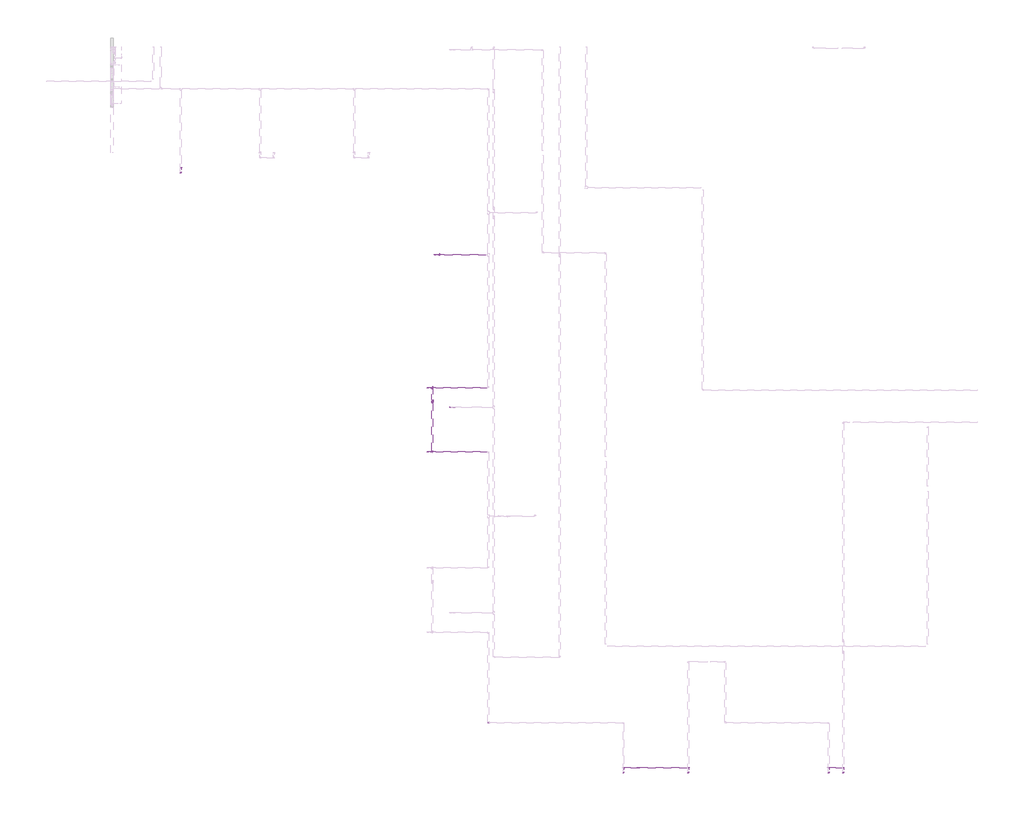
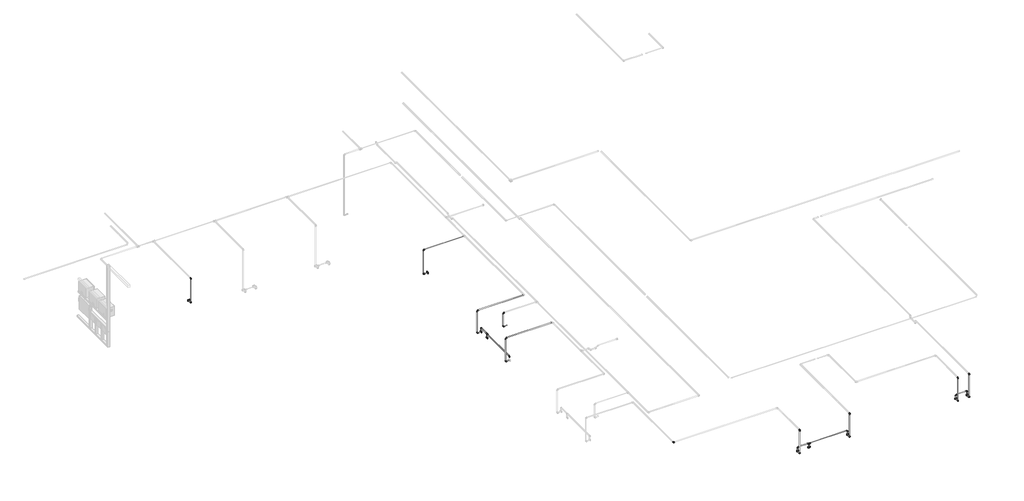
# One storey, part 5 of 40: 33 cable carrier segments, 27 cable carrier fittings, 9 electric appliances.
"""IFC4 building model written with IfcOpenShell, lengths in millimetres."""

from ifc_helpers import new_model, si_unit, point, frame, frame_2d, origin, place, context, project, spatial, circle_curve, trimmed, segment, composite_curve, outline, extrude, transform, mapped, element, save
from components import cable_carrier_fitting_69f1a801, cable_carrier_fitting_8fd13dfc, electric_appliance_5961a143

model = new_model("IFC4")

# Units and contexts
model_context = context("Model", 3, world=origin())
ifc_project = project(units=[si_unit("LENGTHUNIT", "METRE", prefix="MILLI")], contexts=[model_context])

# Site, building, storey
site = spatial("IfcSite", under=ifc_project)
building = spatial("IfcBuilding", under=site)
storey = spatial("IfcBuildingStorey", under=building, Name="1 этаж", Elevation=0.0)

# Cable carrier fittings
placement = place(None, origin())
cable_carrier_fitting_shape = cable_carrier_fitting_69f1a801(model_context)
element("IfcCableCarrierFitting", 1, ObjectType="ADSK_Поворот_Минимальный размер : Неспецифицируемый", at=placement, inside=storey, context=model_context, shape_type="MappedRepresentation", body=[
    mapped(cable_carrier_fitting_shape, transform((-8602.3240021, -12259.3629895, 2650.0), x_axis=(0.0, 0.0, 1.0), y_axis=(1.0, 0.0, 0.0), z_axis=(0.0, 1.0, 0.0))),
])
element("IfcCableCarrierFitting", 2, ObjectType="ADSK_Поворот_Минимальный размер : Неспецифицируемый", at=placement, inside=storey, context=model_context, shape_type="MappedRepresentation", body=[
    mapped(cable_carrier_fitting_shape, transform((-8307.3240021, -12259.3629895, 2650.0), x_axis=(0.0, 0.0, 1.0), y_axis=(-1.0, 0.0, 0.0), z_axis=(0.0, -1.0, 0.0))),
])
element("IfcCableCarrierFitting", 3, ObjectType="ADSK_Поворот_Минимальный размер : Неспецифицируемый", at=placement, inside=storey, context=model_context, shape_type="MappedRepresentation", body=[
    mapped(cable_carrier_fitting_shape, transform((-8307.3240021, -12359.5627951, 2535.0911237), x_axis=(0.0, -1.0, 0.0), y_axis=(0.0, 0.0, 1.0), z_axis=(-1.0, 0.0, 0.0))),
])
element("IfcCableCarrierFitting", 4, ObjectType="ADSK_Поворот_Минимальный размер : Неспецифицируемый", at=placement, inside=storey, context=model_context, shape_type="MappedRepresentation", body=[
    mapped(cable_carrier_fitting_shape, transform((-8307.3240021, -12359.5627951, 3187.0), x_axis=(0.0, 0.0, 1.0), y_axis=(0.0, 1.0, 0.0), z_axis=(-1.0, 0.0, 0.0))),
])
element("IfcCableCarrierFitting", 5, ObjectType="ADSK_Поворот_Минимальный размер : Неспецифицируемый", at=placement, inside=storey, context=model_context, shape_type="MappedRepresentation", body=[
    mapped(cable_carrier_fitting_shape, transform((-8602.3240021, -12359.5627951, 2535.0527319), x_axis=(0.0, -1.0, 0.0), y_axis=(0.0, 0.0, 1.0), z_axis=(-1.0, 0.0, 0.0))),
])
element("IfcCableCarrierFitting", 6, ObjectType="ADSK_Поворот_Минимальный размер : Неспецифицируемый", at=placement, inside=storey, context=model_context, shape_type="MappedRepresentation", body=[
    mapped(cable_carrier_fitting_shape, transform((-8602.3240021, -12359.5627951, 3187.0), x_axis=(0.0, 0.0, 1.0), y_axis=(0.0, 1.0, 0.0), z_axis=(-1.0, 0.0, 0.0))),
])
element("IfcCableCarrierFitting", 7, ObjectType="ADSK_Поворот_Минимальный размер : Неспецифицируемый", at=placement, inside=storey, context=model_context, shape_type="MappedRepresentation", body=[
    mapped(cable_carrier_fitting_shape, transform((-12767.3240021, -12259.3629895, 2650.0), x_axis=(0.0, 0.0, 1.0), y_axis=(1.0, 0.0, 0.0), z_axis=(0.0, 1.0, 0.0))),
])
element("IfcCableCarrierFitting", 8, ObjectType="ADSK_Поворот_Минимальный размер : Неспецифицируемый", at=placement, inside=storey, context=model_context, shape_type="MappedRepresentation", body=[
    mapped(cable_carrier_fitting_shape, transform((-11452.3240021, -12259.3629895, 2650.0), x_axis=(0.0, 0.0, 1.0), y_axis=(-1.0, 0.0, 0.0), z_axis=(0.0, -1.0, 0.0))),
])
element("IfcCableCarrierFitting", 9, ObjectType="ADSK_Поворот_Минимальный размер : Неспецифицируемый", at=placement, inside=storey, context=model_context, shape_type="MappedRepresentation", body=[
    mapped(cable_carrier_fitting_shape, transform((-11452.3240021, -12359.5627951, 2534.0911237), x_axis=(0.0, -1.0, 0.0), y_axis=(0.0, 0.0, 1.0), z_axis=(-1.0, 0.0, 0.0))),
])
element("IfcCableCarrierFitting", 10, ObjectType="ADSK_Поворот_Минимальный размер : Неспецифицируемый", at=placement, inside=storey, context=model_context, shape_type="MappedRepresentation", body=[
    mapped(cable_carrier_fitting_shape, transform((-12767.3240021, -12359.5627951, 2534.0911237), x_axis=(0.0, -1.0, 0.0), y_axis=(0.0, 0.0, 1.0), z_axis=(-1.0, 0.0, 0.0))),
])
element("IfcCableCarrierFitting", 11, ObjectType="ADSK_Поворот_Минимальный размер : Неспецифицируемый", at=placement, inside=storey, context=model_context, shape_type="MappedRepresentation", body=[
    mapped(cable_carrier_fitting_shape, transform((-12767.3240021, -12359.5627951, 3187.0), x_axis=(0.0, 0.0, 1.0), y_axis=(0.0, 1.0, 0.0), z_axis=(-1.0, 0.0, 0.0))),
])
element("IfcCableCarrierFitting", 12, ObjectType="ADSK_Поворот_Минимальный размер : Неспецифицируемый", at=placement, inside=storey, context=model_context, shape_type="MappedRepresentation", body=[
    mapped(cable_carrier_fitting_shape, transform((-15509.3240021, -11350.3629895, 3187.0), x_axis=(0.0, -1.0, 0.0), y_axis=(1.0, 0.0, 0.0), z_axis=(0.0, 0.0, 1.0))),
])
element("IfcCableCarrierFitting", 13, ObjectType="ADSK_Поворот_Минимальный размер : Неспецифицируемый", at=placement, inside=storey, context=model_context, shape_type="MappedRepresentation", body=[
    mapped(cable_carrier_fitting_shape, transform((-16646.3240021, -4545.3629895, 2650.0), x_axis=(0.0, 0.0, 1.0), y_axis=(0.0, -1.0, 0.0), z_axis=(1.0, 0.0, 0.0))),
])
element("IfcCableCarrierFitting", 14, ObjectType="ADSK_Поворот_Минимальный размер : Неспецифицируемый", at=placement, inside=storey, context=model_context, shape_type="MappedRepresentation", body=[
    mapped(cable_carrier_fitting_shape, transform((-16646.3240021, -5845.3629895, 2650.0), x_axis=(0.0, 0.0, 1.0), y_axis=(0.0, 1.0, 0.0), z_axis=(-1.0, 0.0, 0.0))),
])
element("IfcCableCarrierFitting", 15, ObjectType="ADSK_Поворот_Минимальный размер : Неспецифицируемый", at=placement, inside=storey, context=model_context, shape_type="MappedRepresentation", body=[
    mapped(cable_carrier_fitting_shape, transform((-16746.5238077, -5845.3629895, 2534.0911237), x_axis=(-1.0, 0.0, 0.0), y_axis=(0.0, 0.0, 1.0), z_axis=(0.0, 1.0, 0.0))),
])
element("IfcCableCarrierFitting", 16, ObjectType="ADSK_Поворот_Минимальный размер : Неспецифицируемый", at=placement, inside=storey, context=model_context, shape_type="MappedRepresentation", body=[
    mapped(cable_carrier_fitting_shape, transform((-16746.5238077, -4545.3629895, 2534.0911237), x_axis=(-1.0, 0.0, 0.0), y_axis=(0.0, 0.0, 1.0), z_axis=(0.0, 1.0, 0.0))),
])
element("IfcCableCarrierFitting", 17, ObjectType="ADSK_Поворот_Минимальный размер : Неспецифицируемый", at=placement, inside=storey, context=model_context, shape_type="MappedRepresentation", body=[
    mapped(cable_carrier_fitting_shape, transform((-16746.5238077, -4545.3629895, 3166.0), x_axis=(0.0, 0.0, 1.0), y_axis=(1.0, 0.0, 0.0), z_axis=(0.0, 1.0, 0.0))),
])
element("IfcCableCarrierFitting", 18, ObjectType="ADSK_Поворот_Минимальный размер : Неспецифицируемый", at=placement, inside=storey, context=model_context, shape_type="MappedRepresentation", body=[
    mapped(cable_carrier_fitting_shape, transform((-16596.5238077, -1842.8629895, 2488.0911237), x_axis=(-1.0, 0.0, 0.0), y_axis=(0.0, 0.0, 1.0), z_axis=(0.0, 1.0, 0.0))),
])
element("IfcCableCarrierFitting", 19, ObjectType="ADSK_Поворот_Минимальный размер : Неспецифицируемый", at=placement, inside=storey, context=model_context, shape_type="MappedRepresentation", body=[
    mapped(cable_carrier_fitting_shape, transform((-16289.5238077, -4942.8629895, 2797.4861504), x_axis=(-1.0, 0.0, 0.0), y_axis=(0.0, 0.0, 1.0), z_axis=(0.0, 1.0, 0.0))),
])
element("IfcCableCarrierFitting", 20, ObjectType="ADSK_Поворот_Минимальный размер : Неспецифицируемый", at=placement, inside=storey, context=model_context, shape_type="MappedRepresentation", body=[
    mapped(cable_carrier_fitting_shape, transform((-16289.5238077, -4942.8629895, 3180.0), x_axis=(0.0, 0.0, 1.0), y_axis=(1.0, 0.0, 0.0), z_axis=(0.0, 1.0, 0.0))),
])
element("IfcCableCarrierFitting", 21, ObjectType="ADSK_Поворот_Минимальный размер : Неспецифицируемый", at=placement, inside=storey, context=model_context, shape_type="MappedRepresentation", body=[
    mapped(cable_carrier_fitting_shape, transform((-11452.3240021, -12359.5627951, 3187.0), x_axis=(0.0, 0.0, 1.0), y_axis=(0.0, 1.0, 0.0), z_axis=(-1.0, 0.0, 0.0))),
])
element("IfcCableCarrierFitting", 22, ObjectType="ADSK_Поворот_Минимальный размер : Неспецифицируемый", at=placement, inside=storey, context=model_context, shape_type="MappedRepresentation", body=[
    mapped(cable_carrier_fitting_shape, transform((-21754.8240021, -179.5627951, 2488.0911237), x_axis=(0.0, -1.0, 0.0), y_axis=(0.0, 0.0, 1.0), z_axis=(-1.0, 0.0, 0.0))),
])
element("IfcCableCarrierFitting", 23, ObjectType="ADSK_Поворот_Минимальный размер : Неспецифицируемый", at=placement, inside=storey, context=model_context, shape_type="MappedRepresentation", body=[
    mapped(cable_carrier_fitting_shape, transform((-21754.8240021, -179.5627951, 3166.0), x_axis=(0.0, 0.0, 1.0), y_axis=(0.0, 1.0, 0.0), z_axis=(-1.0, 0.0, 0.0))),
])
element("IfcCableCarrierFitting", 24, ObjectType="ADSK_Поворот_Минимальный размер : Неспецифицируемый", at=placement, inside=storey, context=model_context, shape_type="MappedRepresentation", body=[
    mapped(cable_carrier_fitting_shape, transform((-16746.5238077, -5845.3629895, 3187.0), x_axis=(0.0, 0.0, 1.0), y_axis=(1.0, 0.0, 0.0), z_axis=(0.0, 1.0, 0.0))),
])
element("IfcCableCarrierFitting", 25, ObjectType="ADSK_Поворот_Минимальный размер : Неспецифицируемый", at=placement, inside=storey, context=model_context, shape_type="MappedRepresentation", body=[
    mapped(cable_carrier_fitting_shape, transform((-16596.5238077, -1842.8629895, 3166.0), x_axis=(0.0, 0.0, 1.0), y_axis=(1.0, 0.0, 0.0), z_axis=(0.0, 1.0, 0.0))),
])
cable_carrier_fitting_2_shape = cable_carrier_fitting_8fd13dfc(model_context)
element("IfcCableCarrierFitting", 26, ObjectType="ADSK_Тройник : ПВХ", at=placement, inside=storey, context=model_context, shape_type="MappedRepresentation", body=[
    mapped(cable_carrier_fitting_2_shape, transform((-12467.3240021, -12259.3629895, 2650.0), x_axis=(-1.0, 0.0, 0.0), y_axis=(0.0, 0.0, 1.0), z_axis=(0.0, 1.0, 0.0))),
])
element("IfcCableCarrierFitting", 27, ObjectType="ADSK_Тройник : ПВХ", at=placement, inside=storey, context=model_context, shape_type="MappedRepresentation", body=[
    mapped(cable_carrier_fitting_2_shape, transform((-16646.3240021, -4821.3629895, 2650.0), x_axis=(0.0, 1.0, 0.0), y_axis=(0.0, 0.0, 1.0), z_axis=(1.0, 0.0, 0.0))),
])

# Cable carrier segments
element("IfcCableCarrierSegment", 28, ObjectType="Гофрированная труба", at=placement, inside=storey, context=model_context, shape_type="SweptSolid", body=[
    extrude(outline(composite_curve([segment(trimmed(circle_curve(frame_2d((-12259.3629895, 2650.0)), 10.0), [point((-12269.3629895, 2650.0))], [point((-12259.3629895, 2660.0))], False, "CARTESIAN"), True, "CONTINUOUS"), segment(trimmed(circle_curve(frame_2d((-12259.3629895, 2650.0)), 10.0), [point((-12259.3629895, 2660.0))], [point((-12249.3629895, 2650.0))], False, "CARTESIAN"), True, "CONTINUOUS"), segment(trimmed(circle_curve(frame_2d((-12259.3629895, 2650.0)), 10.0), [point((-12249.3629895, 2650.0))], [point((-12259.3629895, 2640.0))], False, "CARTESIAN"), True, "CONTINUOUS"), segment(trimmed(circle_curve(frame_2d((-12259.3629895, 2650.0)), 10.0), [point((-12259.3629895, 2640.0))], [point((-12269.3629895, 2650.0))], False, "CARTESIAN"), True, "CONTINUOUS")], self_intersect=False)), frame((-8581.3240021, 0.0, 0.0), z_axis=(1.0, 0.0, 0.0), x_axis=(0.0, 1.0, 0.0)), (0.0, 0.0, 1.0), 253.0),
])
element("IfcCableCarrierSegment", 29, ObjectType="Гофрированная труба", at=placement, inside=storey, context=model_context, shape_type="SweptSolid", body=[
    extrude(outline(composite_curve([segment(trimmed(circle_curve(frame_2d((-8307.3240021, -12259.3629895)), 10.0), [point((-8317.3240021, -12259.3629895))], [point((-8307.3240021, -12249.3629895))], False, "CARTESIAN"), True, "CONTINUOUS"), segment(trimmed(circle_curve(frame_2d((-8307.3240021, -12259.3629895)), 10.0), [point((-8307.3240021, -12249.3629895))], [point((-8297.3240021, -12259.3629895))], False, "CARTESIAN"), True, "CONTINUOUS"), segment(trimmed(circle_curve(frame_2d((-8307.3240021, -12259.3629895)), 10.0), [point((-8297.3240021, -12259.3629895))], [point((-8307.3240021, -12269.3629895))], False, "CARTESIAN"), True, "CONTINUOUS"), segment(trimmed(circle_curve(frame_2d((-8307.3240021, -12259.3629895)), 10.0), [point((-8307.3240021, -12269.3629895))], [point((-8317.3240021, -12259.3629895))], False, "CARTESIAN"), True, "CONTINUOUS")], self_intersect=False)), frame((0.0, 0.0, 2564.1207114), z_axis=(0.0, 0.0, 1.0), x_axis=(1.0, 0.0, 0.0)), (0.0, 0.0, 1.0), 64.8792886),
])
element("IfcCableCarrierSegment", 30, ObjectType="Гофрированная труба", at=placement, inside=storey, context=model_context, shape_type="SweptSolid", body=[
    extrude(outline(composite_curve([segment(trimmed(circle_curve(frame_2d((-8602.3240021, -12259.3629895)), 10.0), [point((-8612.3240021, -12259.3629895))], [point((-8602.3240021, -12249.3629895))], False, "CARTESIAN"), True, "CONTINUOUS"), segment(trimmed(circle_curve(frame_2d((-8602.3240021, -12259.3629895)), 10.0), [point((-8602.3240021, -12249.3629895))], [point((-8592.3240021, -12259.3629895))], False, "CARTESIAN"), True, "CONTINUOUS"), segment(trimmed(circle_curve(frame_2d((-8602.3240021, -12259.3629895)), 10.0), [point((-8592.3240021, -12259.3629895))], [point((-8602.3240021, -12269.3629895))], False, "CARTESIAN"), True, "CONTINUOUS"), segment(trimmed(circle_curve(frame_2d((-8602.3240021, -12259.3629895)), 10.0), [point((-8602.3240021, -12269.3629895))], [point((-8612.3240021, -12259.3629895))], False, "CARTESIAN"), True, "CONTINUOUS")], self_intersect=False)), frame((0.0, 0.0, 2564.0823197), z_axis=(0.0, 0.0, 1.0), x_axis=(1.0, 0.0, 0.0)), (0.0, 0.0, 1.0), 64.9176803),
])
element("IfcCableCarrierSegment", 31, ObjectType="Гофрированная труба", at=placement, inside=storey, context=model_context, shape_type="SweptSolid", body=[
    extrude(outline(composite_curve([segment(trimmed(circle_curve(frame_2d((2535.0911237, -8307.3240021)), 10.0), [point((2535.0911237, -8317.3240021))], [point((2525.0911237, -8307.3240021))], False, "CARTESIAN"), True, "CONTINUOUS"), segment(trimmed(circle_curve(frame_2d((2535.0911237, -8307.3240021)), 10.0), [point((2525.0911237, -8307.3240021))], [point((2535.0911237, -8297.3240021))], False, "CARTESIAN"), True, "CONTINUOUS"), segment(trimmed(circle_curve(frame_2d((2535.0911237, -8307.3240021)), 10.0), [point((2535.0911237, -8297.3240021))], [point((2545.0911237, -8307.3240021))], False, "CARTESIAN"), True, "CONTINUOUS"), segment(trimmed(circle_curve(frame_2d((2535.0911237, -8307.3240021)), 10.0), [point((2545.0911237, -8307.3240021))], [point((2535.0911237, -8317.3240021))], False, "CARTESIAN"), True, "CONTINUOUS")], self_intersect=False)), frame((0.0, -12338.5627951, 0.0), z_axis=(0.0, 1.0, 0.0), x_axis=(0.0, 0.0, 1.0)), (0.0, 0.0, 1.0), 76.1998056),
])
element("IfcCableCarrierSegment", 32, ObjectType="Гофрированная труба", at=placement, inside=storey, context=model_context, shape_type="SweptSolid", body=[
    extrude(outline(composite_curve([segment(trimmed(circle_curve(frame_2d((-8307.3240021, -12359.5627951)), 10.0), [point((-8317.3240021, -12359.5627951))], [point((-8307.3240021, -12349.5627951))], False, "CARTESIAN"), True, "CONTINUOUS"), segment(trimmed(circle_curve(frame_2d((-8307.3240021, -12359.5627951)), 10.0), [point((-8307.3240021, -12349.5627951))], [point((-8297.3240021, -12359.5627951))], False, "CARTESIAN"), True, "CONTINUOUS"), segment(trimmed(circle_curve(frame_2d((-8307.3240021, -12359.5627951)), 10.0), [point((-8297.3240021, -12359.5627951))], [point((-8307.3240021, -12369.5627951))], False, "CARTESIAN"), True, "CONTINUOUS"), segment(trimmed(circle_curve(frame_2d((-8307.3240021, -12359.5627951)), 10.0), [point((-8307.3240021, -12369.5627951))], [point((-8317.3240021, -12359.5627951))], False, "CARTESIAN"), True, "CONTINUOUS")], self_intersect=False)), frame((0.0, 0.0, 2556.0911237), z_axis=(0.0, 0.0, 1.0), x_axis=(1.0, 0.0, 0.0)), (0.0, 0.0, 1.0), 609.9088763),
])
element("IfcCableCarrierSegment", 33, ObjectType="Гофрированная труба", at=placement, inside=storey, context=model_context, shape_type="SweptSolid", body=[
    extrude(outline(composite_curve([segment(trimmed(circle_curve(frame_2d((2535.0527319, -8602.3240021)), 10.0), [point((2535.0527319, -8612.3240021))], [point((2525.0527319, -8602.3240021))], False, "CARTESIAN"), True, "CONTINUOUS"), segment(trimmed(circle_curve(frame_2d((2535.0527319, -8602.3240021)), 10.0), [point((2525.0527319, -8602.3240021))], [point((2535.0527319, -8592.3240021))], False, "CARTESIAN"), True, "CONTINUOUS"), segment(trimmed(circle_curve(frame_2d((2535.0527319, -8602.3240021)), 10.0), [point((2535.0527319, -8592.3240021))], [point((2545.0527319, -8602.3240021))], False, "CARTESIAN"), True, "CONTINUOUS"), segment(trimmed(circle_curve(frame_2d((2535.0527319, -8602.3240021)), 10.0), [point((2545.0527319, -8602.3240021))], [point((2535.0527319, -8612.3240021))], False, "CARTESIAN"), True, "CONTINUOUS")], self_intersect=False)), frame((0.0, -12338.5627951, 0.0), z_axis=(0.0, 1.0, 0.0), x_axis=(0.0, 0.0, 1.0)), (0.0, 0.0, 1.0), 76.1998056),
])
element("IfcCableCarrierSegment", 34, ObjectType="Гофрированная труба", at=placement, inside=storey, context=model_context, shape_type="SweptSolid", body=[
    extrude(outline(composite_curve([segment(trimmed(circle_curve(frame_2d((-8602.3240021, -12359.5627951)), 10.0), [point((-8612.3240021, -12359.5627951))], [point((-8602.3240021, -12349.5627951))], False, "CARTESIAN"), True, "CONTINUOUS"), segment(trimmed(circle_curve(frame_2d((-8602.3240021, -12359.5627951)), 10.0), [point((-8602.3240021, -12349.5627951))], [point((-8592.3240021, -12359.5627951))], False, "CARTESIAN"), True, "CONTINUOUS"), segment(trimmed(circle_curve(frame_2d((-8602.3240021, -12359.5627951)), 10.0), [point((-8592.3240021, -12359.5627951))], [point((-8602.3240021, -12369.5627951))], False, "CARTESIAN"), True, "CONTINUOUS"), segment(trimmed(circle_curve(frame_2d((-8602.3240021, -12359.5627951)), 10.0), [point((-8602.3240021, -12369.5627951))], [point((-8612.3240021, -12359.5627951))], False, "CARTESIAN"), True, "CONTINUOUS")], self_intersect=False)), frame((0.0, 0.0, 2556.0527319), z_axis=(0.0, 0.0, 1.0), x_axis=(1.0, 0.0, 0.0)), (0.0, 0.0, 1.0), 609.9472681),
])
element("IfcCableCarrierSegment", 35, ObjectType="Гофрированная труба", at=placement, inside=storey, context=model_context, shape_type="SweptSolid", body=[
    extrude(outline(composite_curve([segment(trimmed(circle_curve(frame_2d((-11452.3240021, -12259.3629895)), 10.0), [point((-11462.3240021, -12259.3629895))], [point((-11452.3240021, -12249.3629895))], False, "CARTESIAN"), True, "CONTINUOUS"), segment(trimmed(circle_curve(frame_2d((-11452.3240021, -12259.3629895)), 10.0), [point((-11452.3240021, -12249.3629895))], [point((-11442.3240021, -12259.3629895))], False, "CARTESIAN"), True, "CONTINUOUS"), segment(trimmed(circle_curve(frame_2d((-11452.3240021, -12259.3629895)), 10.0), [point((-11442.3240021, -12259.3629895))], [point((-11452.3240021, -12269.3629895))], False, "CARTESIAN"), True, "CONTINUOUS"), segment(trimmed(circle_curve(frame_2d((-11452.3240021, -12259.3629895)), 10.0), [point((-11452.3240021, -12269.3629895))], [point((-11462.3240021, -12259.3629895))], False, "CARTESIAN"), True, "CONTINUOUS")], self_intersect=False)), frame((0.0, 0.0, 2563.1207114), z_axis=(0.0, 0.0, 1.0), x_axis=(1.0, 0.0, 0.0)), (0.0, 0.0, 1.0), 65.8792886),
])
element("IfcCableCarrierSegment", 36, ObjectType="Гофрированная труба", at=placement, inside=storey, context=model_context, shape_type="SweptSolid", body=[
    extrude(outline(composite_curve([segment(trimmed(circle_curve(frame_2d((-12467.3240021, -12259.3629895)), 10.0), [point((-12477.3240021, -12259.3629895))], [point((-12467.3240021, -12249.3629895))], False, "CARTESIAN"), True, "CONTINUOUS"), segment(trimmed(circle_curve(frame_2d((-12467.3240021, -12259.3629895)), 10.0), [point((-12467.3240021, -12249.3629895))], [point((-12457.3240021, -12259.3629895))], False, "CARTESIAN"), True, "CONTINUOUS"), segment(trimmed(circle_curve(frame_2d((-12467.3240021, -12259.3629895)), 10.0), [point((-12457.3240021, -12259.3629895))], [point((-12467.3240021, -12269.3629895))], False, "CARTESIAN"), True, "CONTINUOUS"), segment(trimmed(circle_curve(frame_2d((-12467.3240021, -12259.3629895)), 10.0), [point((-12467.3240021, -12269.3629895))], [point((-12477.3240021, -12259.3629895))], False, "CARTESIAN"), True, "CONTINUOUS")], self_intersect=False)), frame((0.0, 0.0, 2563.1207114), z_axis=(0.0, 0.0, 1.0), x_axis=(1.0, 0.0, 0.0)), (0.0, 0.0, 1.0), 56.8792886),
])
element("IfcCableCarrierSegment", 37, ObjectType="Гофрированная труба", at=placement, inside=storey, context=model_context, shape_type="SweptSolid", body=[
    extrude(outline(composite_curve([segment(trimmed(circle_curve(frame_2d((-12259.3629895, 2650.0)), 10.0), [point((-12269.3629895, 2650.0))], [point((-12259.3629895, 2660.0))], False, "CARTESIAN"), True, "CONTINUOUS"), segment(trimmed(circle_curve(frame_2d((-12259.3629895, 2650.0)), 10.0), [point((-12259.3629895, 2660.0))], [point((-12249.3629895, 2650.0))], False, "CARTESIAN"), True, "CONTINUOUS"), segment(trimmed(circle_curve(frame_2d((-12259.3629895, 2650.0)), 10.0), [point((-12249.3629895, 2650.0))], [point((-12259.3629895, 2640.0))], False, "CARTESIAN"), True, "CONTINUOUS"), segment(trimmed(circle_curve(frame_2d((-12259.3629895, 2650.0)), 10.0), [point((-12259.3629895, 2640.0))], [point((-12269.3629895, 2650.0))], False, "CARTESIAN"), True, "CONTINUOUS")], self_intersect=False)), frame((-12437.3240021, 0.0, 0.0), z_axis=(1.0, 0.0, 0.0), x_axis=(0.0, 1.0, 0.0)), (0.0, 0.0, 1.0), 964.0),
])
element("IfcCableCarrierSegment", 38, ObjectType="Гофрированная труба", at=placement, inside=storey, context=model_context, shape_type="SweptSolid", body=[
    extrude(outline(composite_curve([segment(trimmed(circle_curve(frame_2d((-12767.3240021, -12259.3629895)), 10.0), [point((-12777.3240021, -12259.3629895))], [point((-12767.3240021, -12249.3629895))], False, "CARTESIAN"), True, "CONTINUOUS"), segment(trimmed(circle_curve(frame_2d((-12767.3240021, -12259.3629895)), 10.0), [point((-12767.3240021, -12249.3629895))], [point((-12757.3240021, -12259.3629895))], False, "CARTESIAN"), True, "CONTINUOUS"), segment(trimmed(circle_curve(frame_2d((-12767.3240021, -12259.3629895)), 10.0), [point((-12757.3240021, -12259.3629895))], [point((-12767.3240021, -12269.3629895))], False, "CARTESIAN"), True, "CONTINUOUS"), segment(trimmed(circle_curve(frame_2d((-12767.3240021, -12259.3629895)), 10.0), [point((-12767.3240021, -12269.3629895))], [point((-12777.3240021, -12259.3629895))], False, "CARTESIAN"), True, "CONTINUOUS")], self_intersect=False)), frame((0.0, 0.0, 2563.1207114), z_axis=(0.0, 0.0, 1.0), x_axis=(1.0, 0.0, 0.0)), (0.0, 0.0, 1.0), 65.8792886),
])
element("IfcCableCarrierSegment", 39, ObjectType="Гофрированная труба", at=placement, inside=storey, context=model_context, shape_type="SweptSolid", body=[
    extrude(outline(composite_curve([segment(trimmed(circle_curve(frame_2d((-12259.3629895, 2650.0)), 10.0), [point((-12269.3629895, 2650.0))], [point((-12259.3629895, 2660.0))], False, "CARTESIAN"), True, "CONTINUOUS"), segment(trimmed(circle_curve(frame_2d((-12259.3629895, 2650.0)), 10.0), [point((-12259.3629895, 2660.0))], [point((-12249.3629895, 2650.0))], False, "CARTESIAN"), True, "CONTINUOUS"), segment(trimmed(circle_curve(frame_2d((-12259.3629895, 2650.0)), 10.0), [point((-12249.3629895, 2650.0))], [point((-12259.3629895, 2640.0))], False, "CARTESIAN"), True, "CONTINUOUS"), segment(trimmed(circle_curve(frame_2d((-12259.3629895, 2650.0)), 10.0), [point((-12259.3629895, 2640.0))], [point((-12269.3629895, 2650.0))], False, "CARTESIAN"), True, "CONTINUOUS")], self_intersect=False)), frame((-12746.3240021, 0.0, 0.0), z_axis=(1.0, 0.0, 0.0), x_axis=(0.0, 1.0, 0.0)), (0.0, 0.0, 1.0), 249.0),
])
element("IfcCableCarrierSegment", 40, ObjectType="Гофрированная труба", at=placement, inside=storey, context=model_context, shape_type="SweptSolid", body=[
    extrude(outline(composite_curve([segment(trimmed(circle_curve(frame_2d((2534.0911237, -11452.3240021)), 10.0), [point((2534.0911237, -11462.3240021))], [point((2524.0911237, -11452.3240021))], False, "CARTESIAN"), True, "CONTINUOUS"), segment(trimmed(circle_curve(frame_2d((2534.0911237, -11452.3240021)), 10.0), [point((2524.0911237, -11452.3240021))], [point((2534.0911237, -11442.3240021))], False, "CARTESIAN"), True, "CONTINUOUS"), segment(trimmed(circle_curve(frame_2d((2534.0911237, -11452.3240021)), 10.0), [point((2534.0911237, -11442.3240021))], [point((2544.0911237, -11452.3240021))], False, "CARTESIAN"), True, "CONTINUOUS"), segment(trimmed(circle_curve(frame_2d((2534.0911237, -11452.3240021)), 10.0), [point((2544.0911237, -11452.3240021))], [point((2534.0911237, -11462.3240021))], False, "CARTESIAN"), True, "CONTINUOUS")], self_intersect=False)), frame((0.0, -12338.5627951, 0.0), z_axis=(0.0, 1.0, 0.0), x_axis=(0.0, 0.0, 1.0)), (0.0, 0.0, 1.0), 76.1998056),
])
element("IfcCableCarrierSegment", 41, ObjectType="Гофрированная труба", at=placement, inside=storey, context=model_context, shape_type="SweptSolid", body=[
    extrude(outline(composite_curve([segment(trimmed(circle_curve(frame_2d((-11452.3240021, -12359.5627951)), 10.0), [point((-11462.3240021, -12359.5627951))], [point((-11452.3240021, -12349.5627951))], False, "CARTESIAN"), True, "CONTINUOUS"), segment(trimmed(circle_curve(frame_2d((-11452.3240021, -12359.5627951)), 10.0), [point((-11452.3240021, -12349.5627951))], [point((-11442.3240021, -12359.5627951))], False, "CARTESIAN"), True, "CONTINUOUS"), segment(trimmed(circle_curve(frame_2d((-11452.3240021, -12359.5627951)), 10.0), [point((-11442.3240021, -12359.5627951))], [point((-11452.3240021, -12369.5627951))], False, "CARTESIAN"), True, "CONTINUOUS"), segment(trimmed(circle_curve(frame_2d((-11452.3240021, -12359.5627951)), 10.0), [point((-11452.3240021, -12369.5627951))], [point((-11462.3240021, -12359.5627951))], False, "CARTESIAN"), True, "CONTINUOUS")], self_intersect=False)), frame((0.0, 0.0, 2555.0911237), z_axis=(0.0, 0.0, 1.0), x_axis=(1.0, 0.0, 0.0)), (0.0, 0.0, 1.0), 610.9088763),
])
element("IfcCableCarrierSegment", 42, ObjectType="Гофрированная труба", at=placement, inside=storey, context=model_context, shape_type="SweptSolid", body=[
    extrude(outline(composite_curve([segment(trimmed(circle_curve(frame_2d((2534.0911237, -12767.3240021)), 10.0), [point((2534.0911237, -12777.3240021))], [point((2524.0911237, -12767.3240021))], False, "CARTESIAN"), True, "CONTINUOUS"), segment(trimmed(circle_curve(frame_2d((2534.0911237, -12767.3240021)), 10.0), [point((2524.0911237, -12767.3240021))], [point((2534.0911237, -12757.3240021))], False, "CARTESIAN"), True, "CONTINUOUS"), segment(trimmed(circle_curve(frame_2d((2534.0911237, -12767.3240021)), 10.0), [point((2534.0911237, -12757.3240021))], [point((2544.0911237, -12767.3240021))], False, "CARTESIAN"), True, "CONTINUOUS"), segment(trimmed(circle_curve(frame_2d((2534.0911237, -12767.3240021)), 10.0), [point((2544.0911237, -12767.3240021))], [point((2534.0911237, -12777.3240021))], False, "CARTESIAN"), True, "CONTINUOUS")], self_intersect=False)), frame((0.0, -12338.5627951, 0.0), z_axis=(0.0, 1.0, 0.0), x_axis=(0.0, 0.0, 1.0)), (0.0, 0.0, 1.0), 76.1998056),
])
element("IfcCableCarrierSegment", 43, ObjectType="Гофрированная труба", at=placement, inside=storey, context=model_context, shape_type="SweptSolid", body=[
    extrude(outline(composite_curve([segment(trimmed(circle_curve(frame_2d((-12767.3240021, -12359.5627951)), 10.0), [point((-12777.3240021, -12359.5627951))], [point((-12767.3240021, -12349.5627951))], False, "CARTESIAN"), True, "CONTINUOUS"), segment(trimmed(circle_curve(frame_2d((-12767.3240021, -12359.5627951)), 10.0), [point((-12767.3240021, -12349.5627951))], [point((-12757.3240021, -12359.5627951))], False, "CARTESIAN"), True, "CONTINUOUS"), segment(trimmed(circle_curve(frame_2d((-12767.3240021, -12359.5627951)), 10.0), [point((-12757.3240021, -12359.5627951))], [point((-12767.3240021, -12369.5627951))], False, "CARTESIAN"), True, "CONTINUOUS"), segment(trimmed(circle_curve(frame_2d((-12767.3240021, -12359.5627951)), 10.0), [point((-12767.3240021, -12369.5627951))], [point((-12777.3240021, -12359.5627951))], False, "CARTESIAN"), True, "CONTINUOUS")], self_intersect=False)), frame((0.0, 0.0, 2555.0911237), z_axis=(0.0, 0.0, 1.0), x_axis=(1.0, 0.0, 0.0)), (0.0, 0.0, 1.0), 610.9088763),
])
element("IfcCableCarrierSegment", 44, ObjectType="Гофрированная труба", at=placement, inside=storey, context=model_context, shape_type="SweptSolid", body=[
    extrude(outline(composite_curve([segment(trimmed(circle_curve(frame_2d((-16646.3240021, -4821.3629895)), 10.0), [point((-16656.3240021, -4821.3629895))], [point((-16646.3240021, -4811.3629895))], False, "CARTESIAN"), True, "CONTINUOUS"), segment(trimmed(circle_curve(frame_2d((-16646.3240021, -4821.3629895)), 10.0), [point((-16646.3240021, -4811.3629895))], [point((-16636.3240021, -4821.3629895))], False, "CARTESIAN"), True, "CONTINUOUS"), segment(trimmed(circle_curve(frame_2d((-16646.3240021, -4821.3629895)), 10.0), [point((-16636.3240021, -4821.3629895))], [point((-16646.3240021, -4831.3629895))], False, "CARTESIAN"), True, "CONTINUOUS"), segment(trimmed(circle_curve(frame_2d((-16646.3240021, -4821.3629895)), 10.0), [point((-16646.3240021, -4831.3629895))], [point((-16656.3240021, -4821.3629895))], False, "CARTESIAN"), True, "CONTINUOUS")], self_intersect=False)), frame((0.0, 0.0, 2563.1207114), z_axis=(0.0, 0.0, 1.0), x_axis=(1.0, 0.0, 0.0)), (0.0, 0.0, 1.0), 56.8792886),
])
element("IfcCableCarrierSegment", 45, ObjectType="Гофрированная труба", at=placement, inside=storey, context=model_context, shape_type="SweptSolid", body=[
    extrude(outline(composite_curve([segment(trimmed(circle_curve(frame_2d((2650.0, -16646.3240021)), 10.0), [point((2650.0, -16656.3240021))], [point((2640.0, -16646.3240021))], False, "CARTESIAN"), True, "CONTINUOUS"), segment(trimmed(circle_curve(frame_2d((2650.0, -16646.3240021)), 10.0), [point((2640.0, -16646.3240021))], [point((2650.0, -16636.3240021))], False, "CARTESIAN"), True, "CONTINUOUS"), segment(trimmed(circle_curve(frame_2d((2650.0, -16646.3240021)), 10.0), [point((2650.0, -16636.3240021))], [point((2660.0, -16646.3240021))], False, "CARTESIAN"), True, "CONTINUOUS"), segment(trimmed(circle_curve(frame_2d((2650.0, -16646.3240021)), 10.0), [point((2660.0, -16646.3240021))], [point((2650.0, -16656.3240021))], False, "CARTESIAN"), True, "CONTINUOUS")], self_intersect=False)), frame((0.0, -5824.3629895, 0.0), z_axis=(0.0, 1.0, 0.0), x_axis=(0.0, 0.0, 1.0)), (0.0, 0.0, 1.0), 973.0),
])
element("IfcCableCarrierSegment", 46, ObjectType="Гофрированная труба", at=placement, inside=storey, context=model_context, shape_type="SweptSolid", body=[
    extrude(outline(composite_curve([segment(trimmed(circle_curve(frame_2d((-16646.3240021, -4545.3629895)), 10.0), [point((-16656.3240021, -4545.3629895))], [point((-16646.3240021, -4535.3629895))], False, "CARTESIAN"), True, "CONTINUOUS"), segment(trimmed(circle_curve(frame_2d((-16646.3240021, -4545.3629895)), 10.0), [point((-16646.3240021, -4535.3629895))], [point((-16636.3240021, -4545.3629895))], False, "CARTESIAN"), True, "CONTINUOUS"), segment(trimmed(circle_curve(frame_2d((-16646.3240021, -4545.3629895)), 10.0), [point((-16636.3240021, -4545.3629895))], [point((-16646.3240021, -4555.3629895))], False, "CARTESIAN"), True, "CONTINUOUS"), segment(trimmed(circle_curve(frame_2d((-16646.3240021, -4545.3629895)), 10.0), [point((-16646.3240021, -4555.3629895))], [point((-16656.3240021, -4545.3629895))], False, "CARTESIAN"), True, "CONTINUOUS")], self_intersect=False)), frame((0.0, 0.0, 2563.1207114), z_axis=(0.0, 0.0, 1.0), x_axis=(1.0, 0.0, 0.0)), (0.0, 0.0, 1.0), 65.8792886),
])
element("IfcCableCarrierSegment", 47, ObjectType="Гофрированная труба", at=placement, inside=storey, context=model_context, shape_type="SweptSolid", body=[
    extrude(outline(composite_curve([segment(trimmed(circle_curve(frame_2d((2650.0, -16646.3240021)), 10.0), [point((2650.0, -16656.3240021))], [point((2640.0, -16646.3240021))], False, "CARTESIAN"), True, "CONTINUOUS"), segment(trimmed(circle_curve(frame_2d((2650.0, -16646.3240021)), 10.0), [point((2640.0, -16646.3240021))], [point((2650.0, -16636.3240021))], False, "CARTESIAN"), True, "CONTINUOUS"), segment(trimmed(circle_curve(frame_2d((2650.0, -16646.3240021)), 10.0), [point((2650.0, -16636.3240021))], [point((2660.0, -16646.3240021))], False, "CARTESIAN"), True, "CONTINUOUS"), segment(trimmed(circle_curve(frame_2d((2650.0, -16646.3240021)), 10.0), [point((2660.0, -16646.3240021))], [point((2650.0, -16656.3240021))], False, "CARTESIAN"), True, "CONTINUOUS")], self_intersect=False)), frame((0.0, -4791.3629895, 0.0), z_axis=(0.0, 1.0, 0.0), x_axis=(0.0, 0.0, 1.0)), (0.0, 0.0, 1.0), 225.0),
])
element("IfcCableCarrierSegment", 48, ObjectType="Гофрированная труба", at=placement, inside=storey, context=model_context, shape_type="SweptSolid", body=[
    extrude(outline(composite_curve([segment(trimmed(circle_curve(frame_2d((-5845.3629895, 2534.0911237)), 10.0), [point((-5835.3629895, 2534.0911237))], [point((-5845.3629895, 2524.0911237))], False, "CARTESIAN"), True, "CONTINUOUS"), segment(trimmed(circle_curve(frame_2d((-5845.3629895, 2534.0911237)), 10.0), [point((-5845.3629895, 2524.0911237))], [point((-5855.3629895, 2534.0911237))], False, "CARTESIAN"), True, "CONTINUOUS"), segment(trimmed(circle_curve(frame_2d((-5845.3629895, 2534.0911237)), 10.0), [point((-5855.3629895, 2534.0911237))], [point((-5845.3629895, 2544.0911237))], False, "CARTESIAN"), True, "CONTINUOUS"), segment(trimmed(circle_curve(frame_2d((-5845.3629895, 2534.0911237)), 10.0), [point((-5845.3629895, 2544.0911237))], [point((-5835.3629895, 2534.0911237))], False, "CARTESIAN"), True, "CONTINUOUS")], self_intersect=False)), frame((-16725.5238077, 0.0, 0.0), z_axis=(1.0, 0.0, 0.0), x_axis=(0.0, 1.0, 0.0)), (0.0, 0.0, 1.0), 76.1998056),
])
element("IfcCableCarrierSegment", 49, ObjectType="Гофрированная труба", at=placement, inside=storey, context=model_context, shape_type="SweptSolid", body=[
    extrude(outline(composite_curve([segment(trimmed(circle_curve(frame_2d((-16746.5238077, -5845.3629895)), 10.0), [point((-16756.5238077, -5845.3629895))], [point((-16746.5238077, -5835.3629895))], False, "CARTESIAN"), True, "CONTINUOUS"), segment(trimmed(circle_curve(frame_2d((-16746.5238077, -5845.3629895)), 10.0), [point((-16746.5238077, -5835.3629895))], [point((-16736.5238077, -5845.3629895))], False, "CARTESIAN"), True, "CONTINUOUS"), segment(trimmed(circle_curve(frame_2d((-16746.5238077, -5845.3629895)), 10.0), [point((-16736.5238077, -5845.3629895))], [point((-16746.5238077, -5855.3629895))], False, "CARTESIAN"), True, "CONTINUOUS"), segment(trimmed(circle_curve(frame_2d((-16746.5238077, -5845.3629895)), 10.0), [point((-16746.5238077, -5855.3629895))], [point((-16756.5238077, -5845.3629895))], False, "CARTESIAN"), True, "CONTINUOUS")], self_intersect=False)), frame((0.0, 0.0, 2555.0911237), z_axis=(0.0, 0.0, 1.0), x_axis=(1.0, 0.0, 0.0)), (0.0, 0.0, 1.0), 610.9088763),
])
element("IfcCableCarrierSegment", 50, ObjectType="Гофрированная труба", at=placement, inside=storey, context=model_context, shape_type="SweptSolid", body=[
    extrude(outline(composite_curve([segment(trimmed(circle_curve(frame_2d((-4545.3629895, 3166.0)), 10.0), [point((-4555.3629895, 3166.0))], [point((-4545.3629895, 3176.0))], False, "CARTESIAN"), True, "CONTINUOUS"), segment(trimmed(circle_curve(frame_2d((-4545.3629895, 3166.0)), 10.0), [point((-4545.3629895, 3176.0))], [point((-4535.3629895, 3166.0))], False, "CARTESIAN"), True, "CONTINUOUS"), segment(trimmed(circle_curve(frame_2d((-4545.3629895, 3166.0)), 10.0), [point((-4535.3629895, 3166.0))], [point((-4545.3629895, 3156.0))], False, "CARTESIAN"), True, "CONTINUOUS"), segment(trimmed(circle_curve(frame_2d((-4545.3629895, 3166.0)), 10.0), [point((-4545.3629895, 3156.0))], [point((-4555.3629895, 3166.0))], False, "CARTESIAN"), True, "CONTINUOUS")], self_intersect=False)), frame((-16725.5238077, 0.0, 0.0), z_axis=(1.0, 0.0, 0.0), x_axis=(0.0, 1.0, 0.0)), (0.0, 0.0, 1.0), 1195.1998056),
])
element("IfcCableCarrierSegment", 51, ObjectType="Гофрированная труба", at=placement, inside=storey, context=model_context, shape_type="SweptSolid", body=[
    extrude(outline(composite_curve([segment(trimmed(circle_curve(frame_2d((-4545.3629895, 2534.0911237)), 10.0), [point((-4535.3629895, 2534.0911237))], [point((-4545.3629895, 2524.0911237))], False, "CARTESIAN"), True, "CONTINUOUS"), segment(trimmed(circle_curve(frame_2d((-4545.3629895, 2534.0911237)), 10.0), [point((-4545.3629895, 2524.0911237))], [point((-4555.3629895, 2534.0911237))], False, "CARTESIAN"), True, "CONTINUOUS"), segment(trimmed(circle_curve(frame_2d((-4545.3629895, 2534.0911237)), 10.0), [point((-4555.3629895, 2534.0911237))], [point((-4545.3629895, 2544.0911237))], False, "CARTESIAN"), True, "CONTINUOUS"), segment(trimmed(circle_curve(frame_2d((-4545.3629895, 2534.0911237)), 10.0), [point((-4545.3629895, 2544.0911237))], [point((-4535.3629895, 2534.0911237))], False, "CARTESIAN"), True, "CONTINUOUS")], self_intersect=False)), frame((-16725.5238077, 0.0, 0.0), z_axis=(1.0, 0.0, 0.0), x_axis=(0.0, 1.0, 0.0)), (0.0, 0.0, 1.0), 76.1998056),
])
element("IfcCableCarrierSegment", 52, ObjectType="Гофрированная труба", at=placement, inside=storey, context=model_context, shape_type="SweptSolid", body=[
    extrude(outline(composite_curve([segment(trimmed(circle_curve(frame_2d((-16746.5238077, -4545.3629895)), 10.0), [point((-16756.5238077, -4545.3629895))], [point((-16746.5238077, -4535.3629895))], False, "CARTESIAN"), True, "CONTINUOUS"), segment(trimmed(circle_curve(frame_2d((-16746.5238077, -4545.3629895)), 10.0), [point((-16746.5238077, -4535.3629895))], [point((-16736.5238077, -4545.3629895))], False, "CARTESIAN"), True, "CONTINUOUS"), segment(trimmed(circle_curve(frame_2d((-16746.5238077, -4545.3629895)), 10.0), [point((-16736.5238077, -4545.3629895))], [point((-16746.5238077, -4555.3629895))], False, "CARTESIAN"), True, "CONTINUOUS"), segment(trimmed(circle_curve(frame_2d((-16746.5238077, -4545.3629895)), 10.0), [point((-16746.5238077, -4555.3629895))], [point((-16756.5238077, -4545.3629895))], False, "CARTESIAN"), True, "CONTINUOUS")], self_intersect=False)), frame((0.0, 0.0, 2555.0911237), z_axis=(0.0, 0.0, 1.0), x_axis=(1.0, 0.0, 0.0)), (0.0, 0.0, 1.0), 589.9088763),
])
element("IfcCableCarrierSegment", 53, ObjectType="Гофрированная труба", at=placement, inside=storey, context=model_context, shape_type="SweptSolid", body=[
    extrude(outline(composite_curve([segment(trimmed(circle_curve(frame_2d((-1842.8629895, 2488.0911237)), 10.0), [point((-1832.8629895, 2488.0911237))], [point((-1842.8629895, 2478.0911237))], False, "CARTESIAN"), True, "CONTINUOUS"), segment(trimmed(circle_curve(frame_2d((-1842.8629895, 2488.0911237)), 10.0), [point((-1842.8629895, 2478.0911237))], [point((-1852.8629895, 2488.0911237))], False, "CARTESIAN"), True, "CONTINUOUS"), segment(trimmed(circle_curve(frame_2d((-1842.8629895, 2488.0911237)), 10.0), [point((-1852.8629895, 2488.0911237))], [point((-1842.8629895, 2498.0911237))], False, "CARTESIAN"), True, "CONTINUOUS"), segment(trimmed(circle_curve(frame_2d((-1842.8629895, 2488.0911237)), 10.0), [point((-1842.8629895, 2498.0911237))], [point((-1832.8629895, 2488.0911237))], False, "CARTESIAN"), True, "CONTINUOUS")], self_intersect=False)), frame((-16575.5238077, 0.0, 0.0), z_axis=(1.0, 0.0, 0.0), x_axis=(0.0, 1.0, 0.0)), (0.0, 0.0, 1.0), 76.1998056),
])
element("IfcCableCarrierSegment", 54, ObjectType="Гофрированная труба", at=placement, inside=storey, context=model_context, shape_type="SweptSolid", body=[
    extrude(outline(composite_curve([segment(trimmed(circle_curve(frame_2d((-16596.5238077, -1842.8629895)), 10.0), [point((-16606.5238077, -1842.8629895))], [point((-16596.5238077, -1832.8629895))], False, "CARTESIAN"), True, "CONTINUOUS"), segment(trimmed(circle_curve(frame_2d((-16596.5238077, -1842.8629895)), 10.0), [point((-16596.5238077, -1832.8629895))], [point((-16586.5238077, -1842.8629895))], False, "CARTESIAN"), True, "CONTINUOUS"), segment(trimmed(circle_curve(frame_2d((-16596.5238077, -1842.8629895)), 10.0), [point((-16586.5238077, -1842.8629895))], [point((-16596.5238077, -1852.8629895))], False, "CARTESIAN"), True, "CONTINUOUS"), segment(trimmed(circle_curve(frame_2d((-16596.5238077, -1842.8629895)), 10.0), [point((-16596.5238077, -1852.8629895))], [point((-16606.5238077, -1842.8629895))], False, "CARTESIAN"), True, "CONTINUOUS")], self_intersect=False)), frame((0.0, 0.0, 2509.0911237), z_axis=(0.0, 0.0, 1.0), x_axis=(1.0, 0.0, 0.0)), (0.0, 0.0, 1.0), 635.9088763),
])
element("IfcCableCarrierSegment", 55, ObjectType="Гофрированная труба", at=placement, inside=storey, context=model_context, shape_type="SweptSolid", body=[
    extrude(outline(composite_curve([segment(trimmed(circle_curve(frame_2d((-1842.8629895, 3166.0)), 10.0), [point((-1852.8629895, 3166.0))], [point((-1842.8629895, 3176.0))], False, "CARTESIAN"), True, "CONTINUOUS"), segment(trimmed(circle_curve(frame_2d((-1842.8629895, 3166.0)), 10.0), [point((-1842.8629895, 3176.0))], [point((-1832.8629895, 3166.0))], False, "CARTESIAN"), True, "CONTINUOUS"), segment(trimmed(circle_curve(frame_2d((-1842.8629895, 3166.0)), 10.0), [point((-1832.8629895, 3166.0))], [point((-1842.8629895, 3156.0))], False, "CARTESIAN"), True, "CONTINUOUS"), segment(trimmed(circle_curve(frame_2d((-1842.8629895, 3166.0)), 10.0), [point((-1842.8629895, 3156.0))], [point((-1852.8629895, 3166.0))], False, "CARTESIAN"), True, "CONTINUOUS")], self_intersect=False)), frame((-16575.5238077, 0.0, 0.0), z_axis=(1.0, 0.0, 0.0), x_axis=(0.0, 1.0, 0.0)), (0.0, 0.0, 1.0), 1036.1998056),
])
element("IfcCableCarrierSegment", 56, ObjectType="Гофрированная труба", at=placement, inside=storey, context=model_context, shape_type="SweptSolid", body=[
    extrude(outline(composite_curve([segment(trimmed(circle_curve(frame_2d((-4942.8629895, 2797.4861504)), 10.0), [point((-4932.8629895, 2797.4861504))], [point((-4942.8629895, 2787.4861504))], False, "CARTESIAN"), True, "CONTINUOUS"), segment(trimmed(circle_curve(frame_2d((-4942.8629895, 2797.4861504)), 10.0), [point((-4942.8629895, 2787.4861504))], [point((-4952.8629895, 2797.4861504))], False, "CARTESIAN"), True, "CONTINUOUS"), segment(trimmed(circle_curve(frame_2d((-4942.8629895, 2797.4861504)), 10.0), [point((-4952.8629895, 2797.4861504))], [point((-4942.8629895, 2807.4861504))], False, "CARTESIAN"), True, "CONTINUOUS"), segment(trimmed(circle_curve(frame_2d((-4942.8629895, 2797.4861504)), 10.0), [point((-4942.8629895, 2807.4861504))], [point((-4932.8629895, 2797.4861504))], False, "CARTESIAN"), True, "CONTINUOUS")], self_intersect=False)), frame((-16268.5238077, 0.0, 0.0), z_axis=(1.0, 0.0, 0.0), x_axis=(0.0, 1.0, 0.0)), (0.0, 0.0, 1.0), 76.1998056),
])
element("IfcCableCarrierSegment", 57, ObjectType="Гофрированная труба", at=placement, inside=storey, context=model_context, shape_type="SweptSolid", body=[
    extrude(outline(composite_curve([segment(trimmed(circle_curve(frame_2d((-16289.5238077, -4942.8629895)), 10.0), [point((-16299.5238077, -4942.8629895))], [point((-16289.5238077, -4932.8629895))], False, "CARTESIAN"), True, "CONTINUOUS"), segment(trimmed(circle_curve(frame_2d((-16289.5238077, -4942.8629895)), 10.0), [point((-16289.5238077, -4932.8629895))], [point((-16279.5238077, -4942.8629895))], False, "CARTESIAN"), True, "CONTINUOUS"), segment(trimmed(circle_curve(frame_2d((-16289.5238077, -4942.8629895)), 10.0), [point((-16279.5238077, -4942.8629895))], [point((-16289.5238077, -4952.8629895))], False, "CARTESIAN"), True, "CONTINUOUS"), segment(trimmed(circle_curve(frame_2d((-16289.5238077, -4942.8629895)), 10.0), [point((-16289.5238077, -4952.8629895))], [point((-16299.5238077, -4942.8629895))], False, "CARTESIAN"), True, "CONTINUOUS")], self_intersect=False)), frame((0.0, 0.0, 2818.4861504), z_axis=(0.0, 0.0, 1.0), x_axis=(1.0, 0.0, 0.0)), (0.0, 0.0, 1.0), 340.5138496),
])
element("IfcCableCarrierSegment", 58, ObjectType="Гофрированная труба", at=placement, inside=storey, context=model_context, shape_type="SweptSolid", body=[
    extrude(outline(composite_curve([segment(trimmed(circle_curve(frame_2d((-5845.3629895, 3187.0)), 10.0), [point((-5835.3629895, 3187.0))], [point((-5845.3629895, 3177.0))], False, "CARTESIAN"), True, "CONTINUOUS"), segment(trimmed(circle_curve(frame_2d((-5845.3629895, 3187.0)), 10.0), [point((-5845.3629895, 3177.0))], [point((-5855.3629895, 3187.0))], False, "CARTESIAN"), True, "CONTINUOUS"), segment(trimmed(circle_curve(frame_2d((-5845.3629895, 3187.0)), 10.0), [point((-5855.3629895, 3187.0))], [point((-5845.3629895, 3197.0))], False, "CARTESIAN"), True, "CONTINUOUS"), segment(trimmed(circle_curve(frame_2d((-5845.3629895, 3187.0)), 10.0), [point((-5845.3629895, 3197.0))], [point((-5835.3629895, 3187.0))], False, "CARTESIAN"), True, "CONTINUOUS")], self_intersect=False)), frame((-16725.5238077, 0.0, 0.0), z_axis=(1.0, 0.0, 0.0), x_axis=(0.0, 1.0, 0.0)), (0.0, 0.0, 1.0), 1195.1998056),
])
element("IfcCableCarrierSegment", 59, ObjectType="Гофрированная труба", at=placement, inside=storey, context=model_context, shape_type="SweptSolid", body=[
    extrude(outline(composite_curve([segment(trimmed(circle_curve(frame_2d((2488.0911237, -21754.8240021)), 10.0), [point((2488.0911237, -21764.8240021))], [point((2478.0911237, -21754.8240021))], False, "CARTESIAN"), True, "CONTINUOUS"), segment(trimmed(circle_curve(frame_2d((2488.0911237, -21754.8240021)), 10.0), [point((2478.0911237, -21754.8240021))], [point((2488.0911237, -21744.8240021))], False, "CARTESIAN"), True, "CONTINUOUS"), segment(trimmed(circle_curve(frame_2d((2488.0911237, -21754.8240021)), 10.0), [point((2488.0911237, -21744.8240021))], [point((2498.0911237, -21754.8240021))], False, "CARTESIAN"), True, "CONTINUOUS"), segment(trimmed(circle_curve(frame_2d((2488.0911237, -21754.8240021)), 10.0), [point((2498.0911237, -21754.8240021))], [point((2488.0911237, -21764.8240021))], False, "CARTESIAN"), True, "CONTINUOUS")], self_intersect=False)), frame((0.0, -158.5627951, 0.0), z_axis=(0.0, 1.0, 0.0), x_axis=(0.0, 0.0, 1.0)), (0.0, 0.0, 1.0), 76.1998056),
])
element("IfcCableCarrierSegment", 60, ObjectType="Гофрированная труба", at=placement, inside=storey, context=model_context, shape_type="SweptSolid", body=[
    extrude(outline(composite_curve([segment(trimmed(circle_curve(frame_2d((-21754.8240021, -179.5627951)), 10.0), [point((-21764.8240021, -179.5627951))], [point((-21754.8240021, -169.5627951))], False, "CARTESIAN"), True, "CONTINUOUS"), segment(trimmed(circle_curve(frame_2d((-21754.8240021, -179.5627951)), 10.0), [point((-21754.8240021, -169.5627951))], [point((-21744.8240021, -179.5627951))], False, "CARTESIAN"), True, "CONTINUOUS"), segment(trimmed(circle_curve(frame_2d((-21754.8240021, -179.5627951)), 10.0), [point((-21744.8240021, -179.5627951))], [point((-21754.8240021, -189.5627951))], False, "CARTESIAN"), True, "CONTINUOUS"), segment(trimmed(circle_curve(frame_2d((-21754.8240021, -179.5627951)), 10.0), [point((-21754.8240021, -189.5627951))], [point((-21764.8240021, -179.5627951))], False, "CARTESIAN"), True, "CONTINUOUS")], self_intersect=False)), frame((0.0, 0.0, 2509.0911237), z_axis=(0.0, 0.0, 1.0), x_axis=(1.0, 0.0, 0.0)), (0.0, 0.0, 1.0), 635.9088763),
])

# Electric appliances
electric_appliance_shape = electric_appliance_5961a143(model_context)
element("IfcElectricAppliance", 61, ObjectType="RBZ_Извещатель_ОхранныйМагнитоуправляемый _Рубеж_ИО 10220-2(грань) : ИО 10220-2", at=placement, inside=storey, context=model_context, shape_type="MappedRepresentation", body=[
    mapped(electric_appliance_shape, transform((-12767.3240021, -12262.3629895, 2546.0), x_axis=(1.0, 0.0, 0.0), y_axis=(0.0, 0.0, -1.0), z_axis=(0.0, 1.0, 0.0))),
])
element("IfcElectricAppliance", 62, ObjectType="RBZ_Извещатель_ОхранныйМагнитоуправляемый _Рубеж_ИО 10220-2(грань) : ИО 10220-2", at=placement, inside=storey, context=model_context, shape_type="MappedRepresentation", body=[
    mapped(electric_appliance_shape, transform((-11452.3240021, -12262.3629895, 2546.0), x_axis=(1.0, 0.0, 0.0), y_axis=(0.0, 0.0, -1.0), z_axis=(0.0, 1.0, 0.0))),
])
element("IfcElectricAppliance", 63, ObjectType="RBZ_Извещатель_ОхранныйМагнитоуправляемый _Рубеж_ИО 10220-2(грань) : ИО 10220-2", at=placement, inside=storey, context=model_context, shape_type="MappedRepresentation", body=[
    mapped(electric_appliance_shape, transform((-16649.3240021, -4821.3629895, 2546.0), x_axis=(0.0, -1.0, 0.0), y_axis=(0.0, 0.0, -1.0), z_axis=(1.0, 0.0, 0.0))),
])
element("IfcElectricAppliance", 64, ObjectType="RBZ_Извещатель_ОхранныйМагнитоуправляемый _Рубеж_ИО 10220-2(грань) : ИО 10220-2", at=placement, inside=storey, context=model_context, shape_type="MappedRepresentation", body=[
    mapped(electric_appliance_shape, transform((-12467.3240021, -12262.3629895, 2546.0), x_axis=(1.0, 0.0, 0.0), y_axis=(0.0, 0.0, -1.0), z_axis=(0.0, 1.0, 0.0))),
])
element("IfcElectricAppliance", 65, ObjectType="RBZ_Извещатель_ОхранныйМагнитоуправляемый _Рубеж_ИО 10220-2(грань) : ИО 10220-2", at=placement, inside=storey, context=model_context, shape_type="MappedRepresentation", body=[
    mapped(electric_appliance_shape, transform((-21754.8240021, -82.3629895, 2500.0), x_axis=(1.0, 0.0, 0.0), y_axis=(0.0, 0.0, -1.0), z_axis=(0.0, 1.0, 0.0))),
])
element("IfcElectricAppliance", 66, ObjectType="RBZ_Извещатель_ОхранныйМагнитоуправляемый _Рубеж_ИО 10220-2(грань) : ИО 10220-2", at=placement, inside=storey, context=model_context, shape_type="MappedRepresentation", body=[
    mapped(electric_appliance_shape, transform((-16649.3240021, -4545.3629895, 2546.0), x_axis=(0.0, -1.0, 0.0), y_axis=(0.0, 0.0, -1.0), z_axis=(1.0, 0.0, 0.0))),
])
element("IfcElectricAppliance", 67, ObjectType="RBZ_Извещатель_ОхранныйМагнитоуправляемый _Рубеж_ИО 10220-2(грань) : ИО 10220-2", at=placement, inside=storey, context=model_context, shape_type="MappedRepresentation", body=[
    mapped(electric_appliance_shape, transform((-8307.3240021, -12262.3629895, 2547.0), x_axis=(1.0, 0.0, 0.0), y_axis=(0.0, 0.0, -1.0), z_axis=(0.0, 1.0, 0.0))),
])
element("IfcElectricAppliance", 68, ObjectType="RBZ_Извещатель_ОхранныйМагнитоуправляемый _Рубеж_ИО 10220-2(грань) : ИО 10220-2", at=placement, inside=storey, context=model_context, shape_type="MappedRepresentation", body=[
    mapped(electric_appliance_shape, transform((-8602.3240021, -12262.3629895, 2546.9616082), x_axis=(1.0, 0.0, 0.0), y_axis=(0.0, 0.0, -1.0), z_axis=(0.0, 1.0, 0.0))),
])
element("IfcElectricAppliance", 69, ObjectType="RBZ_Извещатель_ОхранныйМагнитоуправляемый _Рубеж_ИО 10220-2(грань) : ИО 10220-2", at=placement, inside=storey, context=model_context, shape_type="MappedRepresentation", body=[
    mapped(electric_appliance_shape, transform((-16499.3240021, -1842.8629895, 2500.0), x_axis=(0.0, -1.0, 0.0), y_axis=(0.0, 0.0, -1.0), z_axis=(1.0, 0.0, 0.0))),
])

save(model, "model.ifc")
